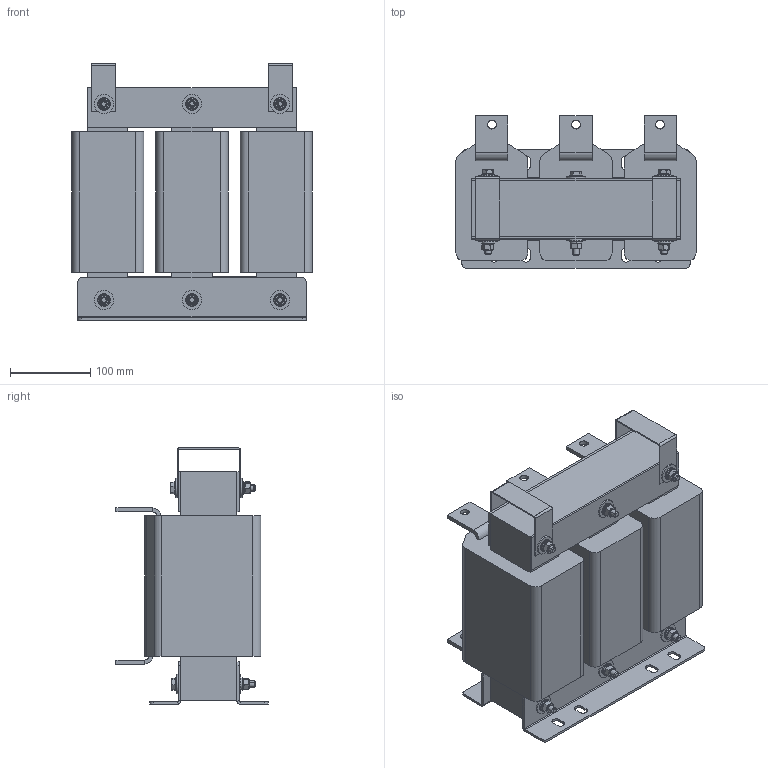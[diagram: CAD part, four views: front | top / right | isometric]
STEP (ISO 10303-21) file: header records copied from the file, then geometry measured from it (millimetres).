
FILE_DESCRIPTION (( 'STEP AP203' ), '1' );
FILE_NAME ('填蝾痦 漯铖皴朦 _ IMF-200_380-4.STEP', '2026-02-17T06:55:20', ( '' ), ( '' ), 'SwSTEP 2.0', 'SolidWorks 2021', '' );
FILE_SCHEMA (( 'CONFIG_CONTROL_DESIGN' ));
Length unit declared in the file: millimetre
Products named in the file (14): 栫謱毿膻獥200; Ãàéêà DIN 934_Œ8; Øàéáà ïëîñêàÿ DIN 125 (A)_Œ8; Øàéáà ïðóæèííàÿ DIN 127 (A)_Œ8; Ñêîáà òàêåëàæíàÿ_200; 忺覷齆趌200; 填蝾痦 漯铖皴朦 _ IMF-200_380-4; Áîëò DIN 933_Œ8å100; Êëåììà íèæíÿÿ_200; Ïëàñòèíà ïðèæèìíàÿ_200; Øàéáà ïëîñêàÿ DIN 9021_Œ8 ¯®«¨ ¬¨¤; Êàòóøêà ñ êëåììàìè_200; 咈櫡_200; Êëåììà âåðõíÿÿ_200
Assembly tree (55 placements, depth 3):
  填蝾痦 漯铖皴朦 _ IMF-200_380-4
    栫謱毿膻獥200
    咈櫡_200  x2
    Êàòóøêà ñ êëåììàìè_200  x3
      忺覷齆趌200
      Êëåììà íèæíÿÿ_200
      Êëåììà âåðõíÿÿ_200
    Ïëàñòèíà ïðèæèìíàÿ_200  x2
    Ñêîáà òàêåëàæíàÿ_200  x2
    Øàéáà ïëîñêàÿ DIN 9021_Œ8 ¯®«¨ ¬¨¤  x12
    Øàéáà ïëîñêàÿ DIN 125 (A)_Œ8  x12
    Øàéáà ïðóæèííàÿ DIN 127 (A)_Œ8  x6
    Ãàéêà DIN 934_Œ8  x6
    Áîëò DIN 933_Œ8å100  x6
Bounding box: 300 x 190 x 320 mm (x, y, z)
Volume: 8897625.3 mm3; surface area: 932337.3 mm2
Topology: 58 solids, 58 shells, 896 faces, 2016 edges, 1254 vertices
Faces by surface type: plane 420, cylinder 272, cone 192, torus 12
Entity records: 9904 total; most frequent: CARTESIAN_POINT 1455, DIRECTION 1303, ORIENTED_EDGE 1124, EDGE_CURVE 562, AXIS2_PLACEMENT_3D 481, VERTEX_POINT 353, VECTOR 341, LINE 341
